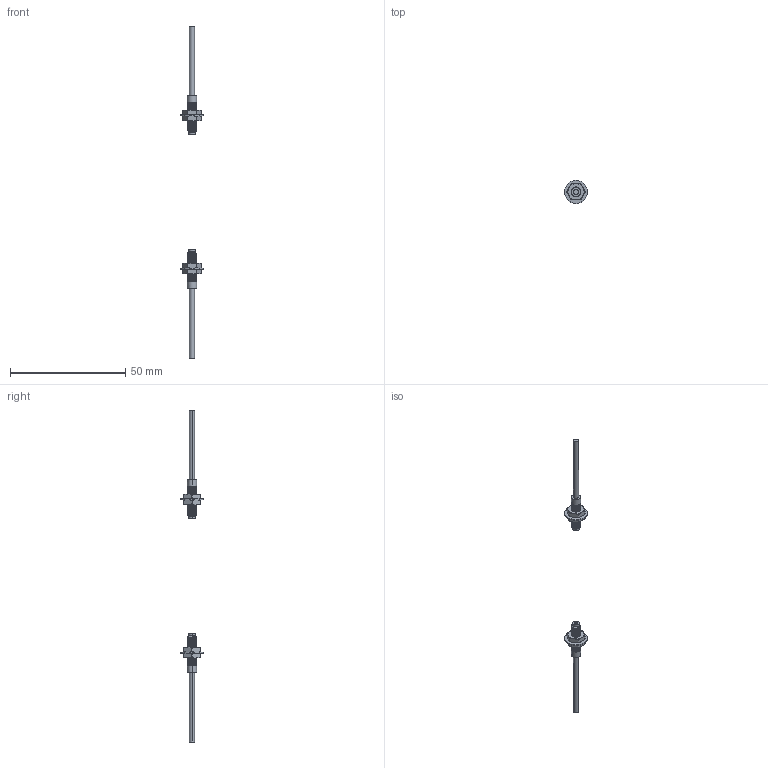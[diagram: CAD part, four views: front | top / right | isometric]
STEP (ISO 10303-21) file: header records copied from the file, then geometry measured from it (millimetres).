
FILE_DESCRIPTION (( 'STEP AP203' ), '1' );
FILE_NAME ('FQ-86H.STEP', '2020-11-04T02:31:47', ( '' ), ( '' ), 'SwSTEP 2.0', 'SolidWorks 2020', '' );
FILE_SCHEMA (( 'CONFIG_CONTROL_DESIGN' ));
Length unit declared in the file: millimetre
Products named in the file (7): FQ-86H; M4菜え____; FQ-86H_R; FQ-86H_T; M4蹟譫x2x2x2
Assembly tree (10 placements, depth 3):
  FQ-86H
    FQ-86H_T
      FQ-86H_T
      M4菜え____
      M4蹟譫x2x2x2  x2
    FQ-86H_R
      FQ-86H_R
      M4菜え____
      M4蹟譫x2x2x2  x2
Bounding box: 10 x 10 x 144 mm (x, y, z)
Volume: 899.6 mm3; surface area: 1878.9 mm2
Topology: 8 solids, 8 shells, 222 faces, 574 edges, 376 vertices
Faces by surface type: cylinder 114, plane 50, cone 24, bspline 18, torus 16
Entity records: 11750 total; most frequent: CARTESIAN_POINT 7833, ORIENTED_EDGE 758, DIRECTION 550, EDGE_CURVE 379, VERTEX_POINT 251, AXIS2_PLACEMENT_3D 219, EDGE_LOOP 156, FACE_OUTER_BOUND 144
